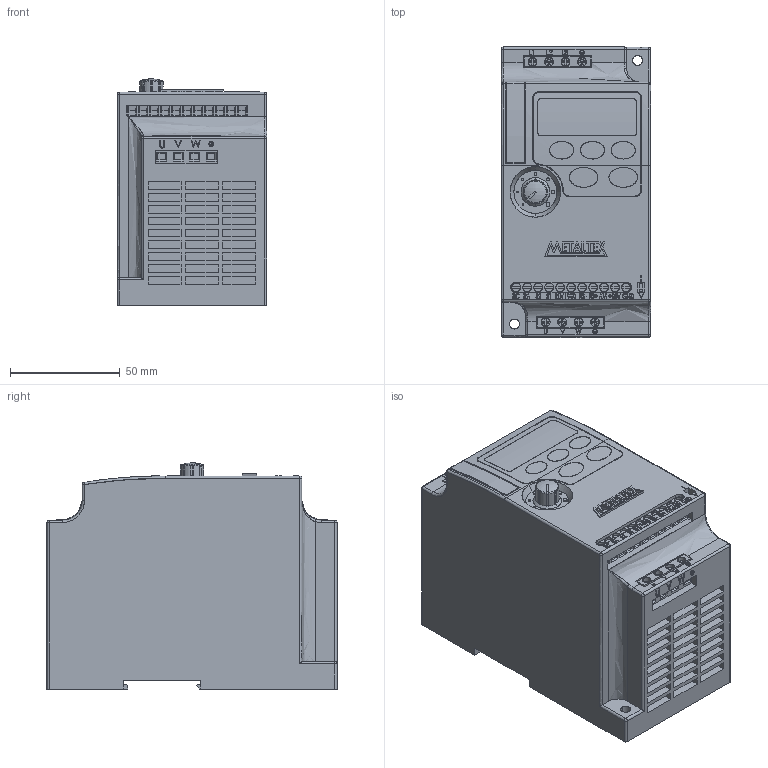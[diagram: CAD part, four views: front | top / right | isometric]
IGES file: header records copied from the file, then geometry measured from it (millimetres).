
Start section: SolidWorks IGES file using analytic representation for surfaces
Global section: file name: D:\X - Arquivos\PROEX\Empresas\P11 - METALTEX\01 - Produtos\IGES\6ª remessa\1ª etapa\IF10-201-1.IGS; native system: SolidWorks 2012; preprocessor: SolidWorks 2012; author: Usuario; date: 190125.145847; units: millimetre
Bounding box: 68 x 132.6 x 103 mm (x, y, z)
Surface area: 69404.3 mm2 (no closed solid volume)
Topology: 0 solids, 0 shells, 1740 faces, 14384 edges, 14372 vertices
Faces by surface type: bspline 1572, revolution 168
